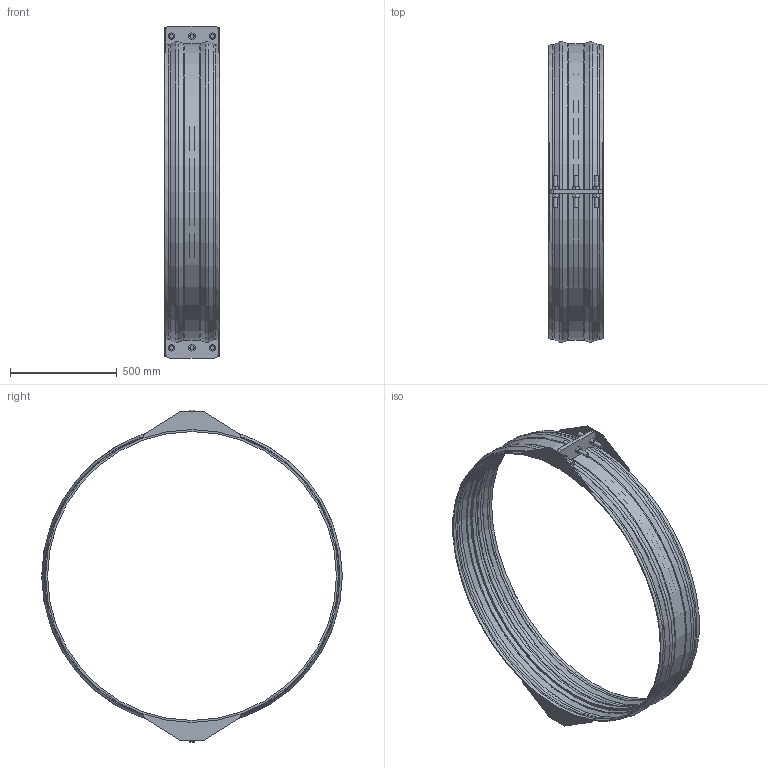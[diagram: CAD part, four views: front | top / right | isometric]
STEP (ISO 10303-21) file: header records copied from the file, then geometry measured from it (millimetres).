
FILE_DESCRIPTION(/* description */ ('VIC SS NON RESTRAINED COUPLING STYLE 229S (FLEX) (BEF)','CAx-IF Rec.Pracs.---Representation and Presentation of Product Manufacturing Information (PMI)---4.0---2014-10-13'),/* implementation_level */ '2;1');
FILE_NAME(/* name */ 'C:\Users\Vjadhav\Desktop\CAD for Inventor\1\229S\STEP\Victaulic_VBSP_Coupling Flexible Non-Restrained_Style 229S (BEF)\Victaulic_VBSP_Coupling Flexible Non-Restrained_Style 229S (BEF)_54 (1350).stp',/* time_stamp */ '2021-08-26T18:17:31+06:00',/* author */ ('Vjadhav'),/* organization */ ('Victaulic'),/* preprocessor_version */ 'ST-DEVELOPER v17.2',/* originating_system */ 'Autodesk Inventor 2019',/* authorisation */ '');
FILE_SCHEMA (('AP242_MANAGED_MODEL_BASED_3D_ENGINEERING_MIM_LF { 1 0 10303 442 1 1 4 }'));
Length unit declared in the file: inch
Products named in the file (1): 229S-54.0
Bounding box: 254 x 1407.81 x 1555.12 mm (x, y, z)
Volume: 8132017.9 mm3; surface area: 2748292.7 mm2
Topology: 1 solids, 1 shells, 203 faces, 541 edges, 366 vertices
Faces by surface type: plane 130, cylinder 43, torus 18, cone 12
Full cylindrical faces by diameter (mm): 19.05 x12, 1352.55 x1, 1371.6 x2, 1377.95 x2
Entity records: 6856 total; most frequent: CARTESIAN_POINT 1320, DIRECTION 1103, ORIENTED_EDGE 1082, EDGE_CURVE 541, AXIS2_PLACEMENT_3D 369, VERTEX_POINT 366, LINE 365, VECTOR 365
